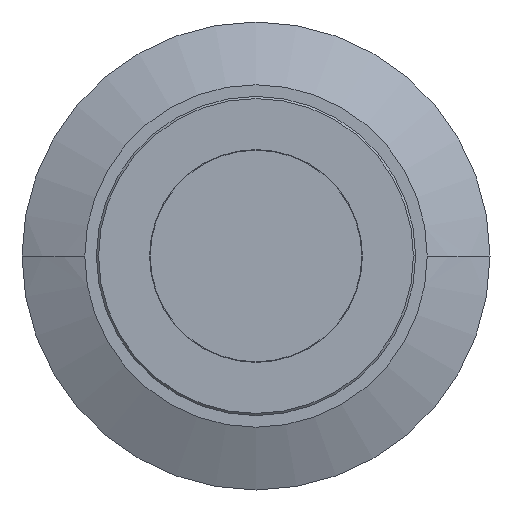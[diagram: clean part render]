
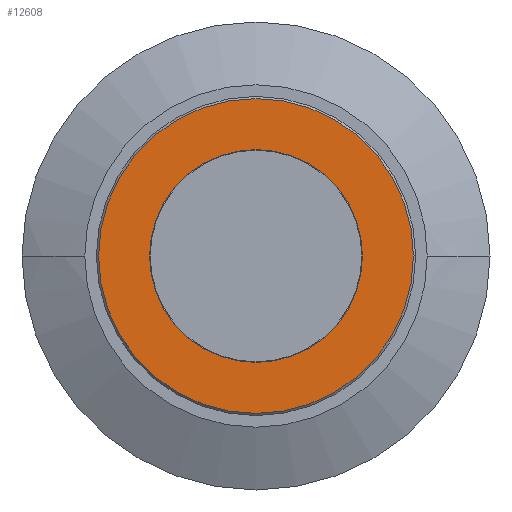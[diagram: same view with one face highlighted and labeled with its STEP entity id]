
A CAD part, front view. The second image highlights one B-rep face of the part: STEP entity #12608.
In plain terms, the highlighted planar face has unit normal (0, -1, 0).
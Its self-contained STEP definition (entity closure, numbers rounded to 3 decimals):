
#12541=CARTESIAN_POINT('',(0.,-11.71,0.));
#12542=DIRECTION('',(0.,-1.,0.));
#12543=DIRECTION('',(-1.,0.,0.));
#12544=AXIS2_PLACEMENT_3D('',#12541,#12542,#12543);
#12546=CARTESIAN_POINT('',(0.,-11.71,0.));
#12547=DIRECTION('',(0.,-1.,0.));
#12548=DIRECTION('',(1.,0.,0.));
#12549=AXIS2_PLACEMENT_3D('',#12546,#12547,#12548);
#12551=CARTESIAN_POINT('',(0.,-11.71,0.));
#12552=DIRECTION('',(0.,1.,0.));
#12553=DIRECTION('',(1.,0.,0.));
#12554=AXIS2_PLACEMENT_3D('',#12551,#12552,#12553);
#12556=CARTESIAN_POINT('',(0.,-11.71,0.));
#12557=DIRECTION('',(0.,1.,0.));
#12558=DIRECTION('',(-1.,0.,0.));
#12559=AXIS2_PLACEMENT_3D('',#12556,#12557,#12558);
#12583=CARTESIAN_POINT('',(7.4,-11.71,0.));
#12584=CARTESIAN_POINT('',(-7.4,-11.71,0.));
#12585=VERTEX_POINT('',#12583);
#12586=VERTEX_POINT('',#12584);
#12587=CARTESIAN_POINT('',(5.,-11.71,0.));
#12588=CARTESIAN_POINT('',(-5.,-11.71,0.));
#12589=VERTEX_POINT('',#12587);
#12590=VERTEX_POINT('',#12588);
#12591=CARTESIAN_POINT('',(0.,-11.71,0.));
#12592=DIRECTION('',(0.,1.,0.));
#12593=DIRECTION('',(1.,0.,0.));
#12594=AXIS2_PLACEMENT_3D('',#12591,#12592,#12593);
#12595=PLANE('',#12594);
#12597=ORIENTED_EDGE('',*,*,#12596,.T.);
#12599=ORIENTED_EDGE('',*,*,#12598,.T.);
#12600=EDGE_LOOP('',(#12597,#12599));
#12601=FACE_OUTER_BOUND('',#12600,.F.);
#12603=ORIENTED_EDGE('',*,*,#12602,.T.);
#12605=ORIENTED_EDGE('',*,*,#12604,.T.);
#12606=EDGE_LOOP('',(#12603,#12605));
#12607=FACE_BOUND('',#12606,.F.);
#12608=ADVANCED_FACE('',(#12601,#12607),#12595,.F.);
#12545=CIRCLE('',#12544,5.);
#12550=CIRCLE('',#12549,5.);
#12555=CIRCLE('',#12554,7.4);
#12560=CIRCLE('',#12559,7.4);
#12596=EDGE_CURVE('',#12585,#12586,#12555,.T.);
#12598=EDGE_CURVE('',#12586,#12585,#12560,.T.);
#12602=EDGE_CURVE('',#12590,#12589,#12545,.T.);
#12604=EDGE_CURVE('',#12589,#12590,#12550,.T.);
